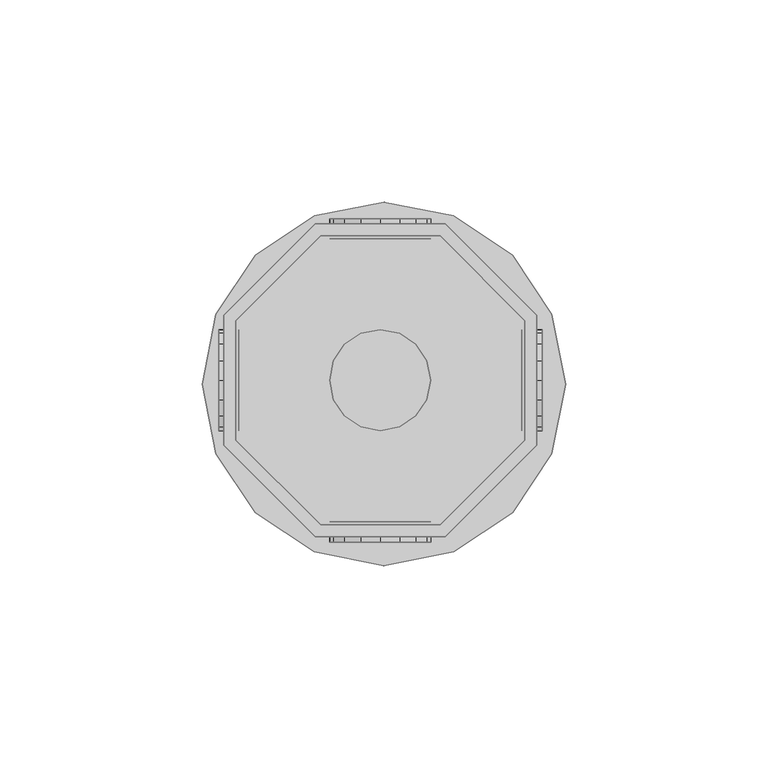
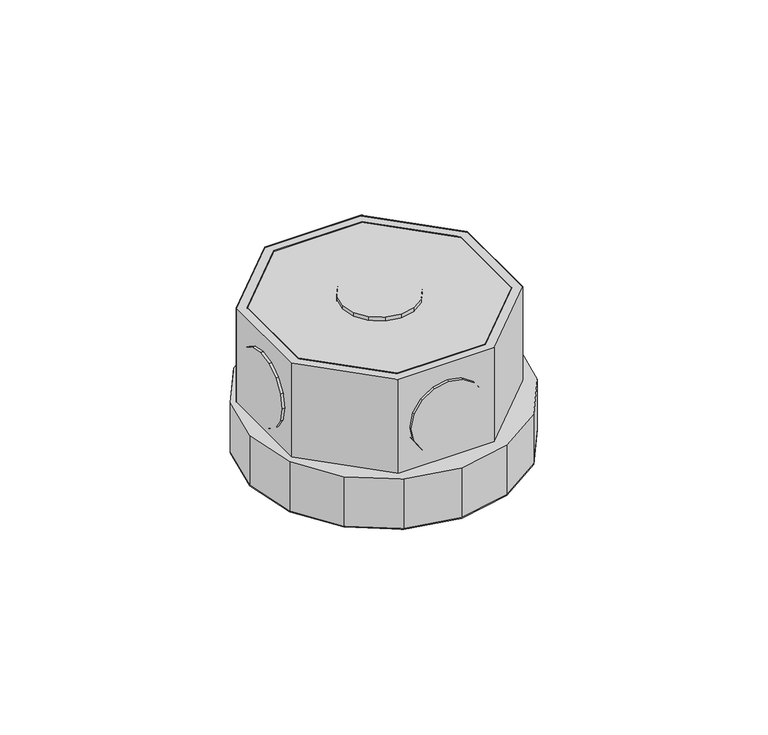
"""IFC4 building model written with IfcOpenShell, lengths in millimetres: light fixture geometry,  213902 :  213902."""

from ifc_helpers import new_model, si_unit, origin, place, context, project, spatial, triangles, source, transform, mapped, element, save


def light_fixture_6d84eb5f(model_context):
    return source(origin(), model_context, "Body", "Tessellation", [
        triangles([(11365.0004791, 25520.5003967, 2924.5999741), (11335.3999603, 25520.5003967, 2975.400071), (11335.3999603, 25520.5003967, 2924.5999741), (11365.0004791, 25520.5003967, 2975.400071), (11366.2004059, 25446.000293, 2924.5999741), (11334.1000397, 25446.000293, 2975.400071), (11334.1000397, 25446.000293, 2924.5999741), (11366.2004059, 25446.000293, 2975.400071), (11314.4000793, 25499.499353, 2975.400071), (11314.4000793, 25499.499353, 2924.5999741), (11388.9001831, 25468.6989075, 2924.5999741), (11388.9001831, 25468.6989075, 2975.400071), (11314.4000793, 25469.9011597, 2975.400071), (11314.4000793, 25469.9011597, 2924.5999741), (11388.9001831, 25500.7992737, 2924.5999741), (11388.9001831, 25500.7992737, 2975.400071), (11335.3999603, 25449.0001099, 2975.400071), (11335.3999603, 25449.0001099, 2924.5999741), (11366.2004059, 25523.5002136, 2924.5999741), (11366.2004059, 25523.5002136, 2975.400071), (11365.0004791, 25449.0001099, 2924.5999741), (11365.0004791, 25449.0001099, 2975.400071), (11334.1000397, 25523.5002136, 2975.400071), (11334.1000397, 25523.5002136, 2924.5999741), (11385.9003662, 25469.9011597, 2924.5999741), (11385.9003662, 25469.9011597, 2975.400071), (11311.4002625, 25500.7992737, 2975.400071), (11311.4002625, 25500.7992737, 2924.5999741), (11311.4002625, 25468.6989075, 2975.400071), (11385.9003662, 25499.499353, 2975.400071), (11385.9003662, 25499.499353, 2924.5999741), (11311.4002625, 25468.6989075, 2924.5999741), (11314.4000793, 25469.9011597, 2972.3999634), (11335.3999603, 25449.0001099, 2972.3999634), (11365.0004791, 25449.0001099, 2972.3999634), (11385.9003662, 25469.9011597, 2972.3999634), (11385.9003662, 25499.499353, 2972.3999634), (11365.0004791, 25520.5003967, 2972.3999634), (11335.3999603, 25520.5003967, 2972.3999634), (11314.4000793, 25499.499353, 2972.3999634), (11311.4002625, 25500.7992737, 2942.4000504), (11334.1000397, 25523.5002136, 2942.4000504), (11366.2004059, 25523.5002136, 2942.4000504), (11388.9001831, 25500.7992737, 2942.4000504), (11388.9001831, 25468.6989075, 2942.4000504), (11366.2004059, 25446.000293, 2942.4000504), (11334.1000397, 25446.000293, 2942.4000504), (11311.4002625, 25468.6989075, 2942.4000504), (11333.800058, 25442.3005188, 2942.4000504), (11309.5003784, 25466.5990356, 2942.4000504), (11319.1997864, 25451.9999268, 2942.4000504), (11306.0994232, 25483.8003113, 2942.4000504), (11309.5003784, 25501.0992554, 2942.4000504), (11319.1997864, 25515.7006897, 2942.4000504), (11333.800058, 25525.4000977, 2942.4000504), (11351.1001648, 25528.7998901, 2942.4000504), (11368.3002777, 25525.4000977, 2942.4000504), (11392.5999573, 25501.0992554, 2942.4000504), (11382.9005493, 25515.7006897, 2942.4000504), (11351.1001648, 25438.8007324, 2942.4000504), (11368.3002777, 25442.3005188, 2942.4000504), (11382.9005493, 25451.9999268, 2942.4000504), (11392.5999573, 25466.5990356, 2942.4000504), (11396.0997437, 25483.8003113, 2942.4000504), (11309.5003784, 25466.5990356, 2924.5999741), (11333.800058, 25442.3005188, 2924.5999741), (11319.1997864, 25451.9999268, 2924.5999741), (11306.0994232, 25483.8003113, 2924.5999741), (11309.5003784, 25501.0992554, 2924.5999741), (11319.1997864, 25515.7006897, 2924.5999741), (11333.800058, 25525.4000977, 2924.5999741), (11351.1001648, 25528.7998901, 2924.5999741), (11368.3002777, 25525.4000977, 2924.5999741), (11392.5999573, 25501.0992554, 2924.5999741), (11382.9005493, 25515.7006897, 2924.5999741), (11351.1001648, 25438.8007324, 2924.5999741), (11368.3002777, 25442.3005188, 2924.5999741), (11382.9005493, 25451.9999268, 2924.5999741), (11392.5999573, 25466.5990356, 2924.5999741), (11396.0997437, 25483.8003113, 2924.5999741), (11338.599765, 25524.7001404, 2952.6000092), (11345.4005127, 25524.7001404, 2945.9001274), (11341.2996002, 25524.7001404, 2948.5999626), (11337.6998199, 25524.7001404, 2957.4000069), (11350.2002197, 25524.7001404, 2944.8998978), (11338.599765, 25524.7001404, 2962.2000046), (11354.9999268, 25524.7001404, 2945.9001274), (11341.2996002, 25524.7001404, 2966.2000511), (11358.9996826, 25524.7001404, 2948.5999626), (11345.4005127, 25524.7001404, 2968.8998863), (11361.6995178, 25524.7001404, 2952.6000092), (11350.2002197, 25524.7001404, 2969.900116), (11362.6994568, 25524.7001404, 2957.4000069), (11354.9999268, 25524.7001404, 2968.8998863), (11361.6995178, 25524.7001404, 2962.2000046), (11358.9996826, 25524.7001404, 2966.2000511), (11345.4005127, 25519.7004456, 2945.9001274), (11338.599765, 25519.7004456, 2952.6000092), (11341.2996002, 25519.7004456, 2948.5999626), (11350.2002197, 25519.7004456, 2944.8998978), (11337.6998199, 25519.7004456, 2957.4000069), (11354.9999268, 25519.7004456, 2945.9001274), (11338.599765, 25519.7004456, 2962.2000046), (11358.9996826, 25519.7004456, 2948.5999626), (11341.2996002, 25519.7004456, 2966.2000511), (11345.4005127, 25519.7004456, 2968.8998863), (11361.6995178, 25519.7004456, 2952.6000092), (11350.2002197, 25519.7004456, 2969.900116), (11362.6994568, 25519.7004456, 2957.4000069), (11354.9999268, 25519.7004456, 2968.8998863), (11361.6995178, 25519.7004456, 2962.2000046), (11358.9996826, 25519.7004456, 2966.2000511), (11338.599765, 25449.7000671, 2952.6000092), (11345.4005127, 25449.7000671, 2945.9001274), (11341.2996002, 25449.7000671, 2948.5999626), (11337.6998199, 25449.7000671, 2957.4000069), (11350.2002197, 25449.7000671, 2944.8998978), (11338.599765, 25449.7000671, 2962.2000046), (11354.9999268, 25449.7000671, 2945.9001274), (11341.2996002, 25449.7000671, 2966.2000511), (11358.9996826, 25449.7000671, 2948.5999626), (11345.4005127, 25449.7000671, 2968.8998863), (11361.6995178, 25449.7000671, 2952.6000092), (11350.2002197, 25449.7000671, 2969.900116), (11362.6994568, 25449.7000671, 2957.4000069), (11354.9999268, 25449.7000671, 2968.8998863), (11361.6995178, 25449.7000671, 2962.2000046), (11358.9996826, 25449.7000671, 2966.2000511), (11345.4005127, 25444.7003723, 2945.9001274), (11338.599765, 25444.7003723, 2952.6000092), (11341.2996002, 25444.7003723, 2948.5999626), (11350.2002197, 25444.7003723, 2944.8998978), (11337.6998199, 25444.7003723, 2957.4000069), (11354.9999268, 25444.7003723, 2945.9001274), (11338.599765, 25444.7003723, 2962.2000046), (11358.9996826, 25444.7003723, 2948.5999626), (11341.2996002, 25444.7003723, 2966.2000511), (11345.4005127, 25444.7003723, 2968.8998863), (11361.6995178, 25444.7003723, 2952.6000092), (11350.2002197, 25444.7003723, 2969.900116), (11362.6994568, 25444.7003723, 2957.4000069), (11354.9999268, 25444.7003723, 2968.8998863), (11361.6995178, 25444.7003723, 2962.2000046), (11358.9996826, 25444.7003723, 2966.2000511), (11315.2000305, 25479.9005493, 2945.9001274), (11315.2000305, 25473.2009583, 2952.6000092), (11315.2000305, 25475.9007935, 2948.5999626), (11315.2000305, 25484.7002563, 2944.8998978), (11315.2000305, 25472.2010193, 2957.4000069), (11315.2000305, 25489.4999634, 2945.9001274), (11315.2000305, 25473.2009583, 2962.2000046), (11315.2000305, 25493.5997131, 2948.5999626), (11315.2000305, 25475.9007935, 2966.2000511), (11315.2000305, 25479.9005493, 2968.8998863), (11315.2000305, 25496.2995483, 2952.6000092), (11315.2000305, 25484.7002563, 2969.900116), (11315.2000305, 25497.1994934, 2957.4000069), (11315.2000305, 25489.4999634, 2968.8998863), (11315.2000305, 25496.2995483, 2962.2000046), (11315.2000305, 25493.5997131, 2966.2000511), (11310.2003357, 25473.2009583, 2952.6000092), (11310.2003357, 25479.9005493, 2945.9001274), (11310.2003357, 25475.9007935, 2948.5999626), (11310.2003357, 25472.2010193, 2957.4000069), (11310.2003357, 25484.7002563, 2944.8998978), (11310.2003357, 25473.2009583, 2962.2000046), (11310.2003357, 25489.4999634, 2945.9001274), (11310.2003357, 25475.9007935, 2966.2000511), (11310.2003357, 25493.5997131, 2948.5999626), (11310.2003357, 25479.9005493, 2968.8998863), (11310.2003357, 25496.2995483, 2952.6000092), (11310.2003357, 25484.7002563, 2969.900116), (11310.2003357, 25497.1994934, 2957.4000069), (11310.2003357, 25489.4999634, 2968.8998863), (11310.2003357, 25496.2995483, 2962.2000046), (11310.2003357, 25493.5997131, 2966.2000511), (11390.2001038, 25479.9005493, 2945.9001274), (11390.2001038, 25473.2009583, 2952.6000092), (11390.2001038, 25475.9007935, 2948.5999626), (11390.2001038, 25484.7002563, 2944.8998978), (11390.2001038, 25472.2010193, 2957.4000069), (11390.2001038, 25489.4999634, 2945.9001274), (11390.2001038, 25473.2009583, 2962.2000046), (11390.2001038, 25493.5997131, 2948.5999626), (11390.2001038, 25475.9007935, 2966.2000511), (11390.2001038, 25479.9005493, 2968.8998863), (11390.2001038, 25496.2995483, 2952.6000092), (11390.2001038, 25484.7002563, 2969.900116), (11390.2001038, 25497.1994934, 2957.4000069), (11390.2001038, 25489.4999634, 2968.8998863), (11390.2001038, 25496.2995483, 2962.2000046), (11390.2001038, 25493.5997131, 2966.2000511), (11385.2004089, 25473.2009583, 2952.6000092), (11385.2004089, 25479.9005493, 2945.9001274), (11385.2004089, 25475.9007935, 2948.5999626), (11385.2004089, 25472.2010193, 2957.4000069), (11385.2004089, 25484.7002563, 2944.8998978), (11385.2004089, 25473.2009583, 2962.2000046), (11385.2004089, 25489.4999634, 2945.9001274), (11385.2004089, 25475.9007935, 2966.2000511), (11385.2004089, 25493.5997131, 2948.5999626), (11385.2004089, 25479.9005493, 2968.8998863), (11385.2004089, 25496.2995483, 2952.6000092), (11385.2004089, 25484.7002563, 2969.900116), (11385.2004089, 25497.1994934, 2957.4000069), (11385.2004089, 25489.4999634, 2968.8998863), (11385.2004089, 25496.2995483, 2962.2000046), (11385.2004089, 25493.5997131, 2966.2000511), (11345.4005127, 25473.2009583, 2976.9999733), (11338.599765, 25479.9005493, 2976.9999733), (11341.2996002, 25475.9007935, 2976.9999733), (11337.6998199, 25484.7002563, 2976.9999733), (11350.2002197, 25472.2010193, 2976.9999733), (11338.599765, 25489.4999634, 2976.9999733), (11354.9999268, 25473.2009583, 2976.9999733), (11341.2996002, 25493.5997131, 2976.9999733), (11358.9996826, 25475.9007935, 2976.9999733), (11345.4005127, 25496.2995483, 2976.9999733), (11361.6995178, 25479.9005493, 2976.9999733), (11350.2002197, 25497.1994934, 2976.9999733), (11362.6994568, 25484.7002563, 2976.9999733), (11354.9999268, 25496.2995483, 2976.9999733), (11361.6995178, 25489.4999634, 2976.9999733), (11358.9996826, 25493.5997131, 2976.9999733), (11338.599765, 25479.9005493, 2971.9999878), (11345.4005127, 25473.2009583, 2971.9999878), (11341.2996002, 25475.9007935, 2971.9999878), (11337.6998199, 25484.7002563, 2971.9999878), (11350.2002197, 25472.2010193, 2971.9999878), (11338.599765, 25489.4999634, 2971.9999878), (11354.9999268, 25473.2009583, 2971.9999878), (11341.2996002, 25493.5997131, 2971.9999878), (11358.9996826, 25475.9007935, 2971.9999878), (11345.4005127, 25496.2995483, 2971.9999878), (11361.6995178, 25479.9005493, 2971.9999878), (11350.2002197, 25497.1994934, 2971.9999878), (11362.6994568, 25484.7002563, 2971.9999878), (11354.9999268, 25496.2995483, 2971.9999878), (11361.6995178, 25489.4999634, 2971.9999878), (11358.9996826, 25493.5997131, 2971.9999878)], [[1, 2, 3], [2, 1, 4], [5, 6, 7], [6, 5, 8], [3, 9, 10], [9, 3, 2], [11, 8, 5], [8, 11, 12], [10, 13, 14], [13, 10, 9], [15, 12, 11], [12, 15, 16], [14, 17, 18], [17, 14, 13], [19, 16, 15], [16, 19, 20], [17, 21, 18], [21, 17, 22], [23, 19, 24], [19, 23, 20], [22, 25, 21], [25, 22, 26], [27, 24, 28], [24, 27, 23], [6, 13, 29], [29, 13, 27], [27, 13, 9], [27, 9, 23], [23, 9, 2], [23, 2, 4], [23, 4, 20], [20, 4, 30], [8, 17, 6], [6, 17, 13], [17, 8, 22], [12, 22, 8], [22, 12, 26], [30, 26, 12], [16, 30, 12], [20, 30, 16], [30, 1, 31], [1, 30, 4], [6, 32, 7], [32, 6, 29], [32, 14, 7], [28, 14, 32], [14, 28, 10], [24, 10, 28], [10, 24, 3], [1, 3, 24], [19, 1, 24], [31, 1, 19], [7, 18, 5], [14, 18, 7], [5, 18, 21], [5, 21, 11], [11, 21, 25], [11, 25, 31], [11, 31, 15], [15, 31, 19], [26, 31, 25], [31, 26, 30], [29, 28, 32], [28, 29, 27], [17, 33, 34], [33, 17, 13], [35, 17, 34], [17, 35, 22], [36, 22, 35], [22, 36, 26], [37, 26, 36], [26, 37, 30], [38, 30, 37], [30, 38, 4], [2, 38, 39], [38, 2, 4], [17, 9, 13], [9, 17, 22], [9, 22, 2], [2, 22, 26], [2, 26, 4], [4, 26, 30], [13, 40, 33], [40, 13, 9], [40, 34, 33], [35, 34, 40], [35, 40, 39], [35, 39, 36], [36, 39, 38], [36, 38, 37], [9, 39, 40], [39, 9, 2], [24, 41, 28], [41, 24, 42], [19, 42, 24], [42, 19, 43], [44, 19, 15], [19, 44, 43], [45, 15, 11], [15, 45, 44], [46, 11, 5], [11, 46, 45], [47, 5, 7], [5, 47, 46], [32, 47, 7], [47, 32, 48], [28, 48, 32], [48, 28, 41], [49, 50, 51], [48, 50, 49], [50, 48, 52], [41, 52, 48], [52, 41, 53], [53, 41, 54], [42, 54, 41], [54, 42, 55], [55, 42, 43], [55, 43, 56], [56, 43, 57], [57, 43, 44], [57, 44, 58], [57, 58, 59], [47, 49, 60], [49, 47, 48], [47, 60, 46], [61, 46, 60], [46, 61, 62], [46, 62, 45], [45, 62, 63], [44, 45, 63], [44, 63, 64], [44, 64, 58], [65, 66, 67], [66, 65, 32], [68, 32, 65], [32, 68, 28], [28, 68, 69], [70, 28, 69], [28, 70, 24], [71, 24, 70], [19, 24, 71], [19, 71, 72], [73, 19, 72], [19, 73, 15], [74, 15, 73], [74, 73, 75], [76, 66, 7], [32, 7, 66], [5, 76, 7], [76, 5, 77], [77, 5, 78], [11, 78, 5], [78, 11, 79], [79, 11, 15], [79, 15, 80], [80, 15, 74], [57, 75, 73], [75, 57, 59], [56, 73, 72], [73, 56, 57], [55, 72, 71], [72, 55, 56], [54, 71, 70], [71, 54, 55], [53, 70, 69], [70, 53, 54], [52, 69, 68], [69, 52, 53], [50, 68, 65], [68, 50, 52], [51, 65, 67], [65, 51, 50], [66, 51, 67], [51, 66, 49], [76, 49, 66], [49, 76, 60], [77, 60, 76], [60, 77, 61], [78, 61, 77], [61, 78, 62], [79, 62, 78], [62, 79, 63], [80, 63, 79], [63, 80, 64], [75, 58, 74], [58, 75, 59], [74, 64, 80], [64, 74, 58], [81, 82, 83], [82, 81, 84], [85, 82, 84], [85, 84, 86], [87, 85, 86], [87, 86, 88], [87, 88, 89], [89, 88, 90], [89, 90, 91], [91, 90, 92], [91, 92, 93], [93, 92, 94], [93, 94, 95], [95, 94, 96], [97, 98, 99], [98, 97, 100], [101, 98, 100], [101, 100, 102], [103, 101, 102], [103, 102, 104], [103, 104, 105], [105, 104, 106], [106, 104, 107], [106, 107, 108], [108, 107, 109], [108, 109, 110], [110, 109, 111], [110, 111, 112], [87, 104, 102], [104, 87, 89], [85, 102, 100], [102, 85, 87], [82, 100, 97], [100, 82, 85], [83, 97, 99], [97, 83, 82], [98, 83, 99], [83, 98, 81], [101, 81, 98], [81, 101, 84], [103, 84, 101], [84, 103, 86], [105, 86, 103], [86, 105, 88], [106, 88, 105], [88, 106, 90], [108, 90, 106], [90, 108, 92], [110, 92, 108], [92, 110, 94], [112, 94, 110], [94, 112, 96], [95, 112, 111], [112, 95, 96], [93, 111, 109], [111, 93, 95], [89, 107, 104], [107, 89, 91], [91, 109, 107], [109, 91, 93], [113, 114, 115], [114, 113, 116], [117, 114, 116], [117, 116, 118], [119, 117, 118], [119, 118, 120], [119, 120, 121], [121, 120, 122], [121, 122, 123], [123, 122, 124], [123, 124, 125], [125, 124, 126], [125, 126, 127], [127, 126, 128], [129, 130, 131], [130, 129, 132], [133, 130, 132], [133, 132, 134], [135, 133, 134], [135, 134, 136], [135, 136, 137], [137, 136, 138], [138, 136, 139], [138, 139, 140], [140, 139, 141], [140, 141, 142], [142, 141, 143], [142, 143, 144], [119, 136, 134], [136, 119, 121], [117, 134, 132], [134, 117, 119], [114, 132, 129], [132, 114, 117], [115, 129, 131], [129, 115, 114], [130, 115, 131], [115, 130, 113], [133, 113, 130], [113, 133, 116], [135, 116, 133], [116, 135, 118], [137, 118, 135], [118, 137, 120], [138, 120, 137], [120, 138, 122], [140, 122, 138], [122, 140, 124], [142, 124, 140], [124, 142, 126], [144, 126, 142], [126, 144, 128], [127, 144, 143], [144, 127, 128], [125, 143, 141], [143, 125, 127], [121, 139, 136], [139, 121, 123], [123, 141, 139], [141, 123, 125], [145, 146, 147], [146, 145, 148], [149, 146, 148], [149, 148, 150], [151, 149, 150], [151, 150, 152], [151, 152, 153], [153, 152, 154], [154, 152, 155], [154, 155, 156], [156, 155, 157], [156, 157, 158], [158, 157, 159], [158, 159, 160], [161, 162, 163], [162, 161, 164], [165, 162, 164], [165, 164, 166], [167, 165, 166], [167, 166, 168], [169, 167, 168], [169, 168, 170], [169, 170, 171], [171, 170, 172], [171, 172, 173], [173, 172, 174], [173, 174, 175], [175, 174, 176], [158, 176, 174], [176, 158, 160], [156, 174, 172], [174, 156, 158], [154, 172, 170], [172, 154, 156], [153, 170, 168], [170, 153, 154], [151, 168, 166], [168, 151, 153], [149, 166, 164], [166, 149, 151], [146, 164, 161], [164, 146, 149], [147, 161, 163], [161, 147, 146], [162, 147, 163], [147, 162, 145], [165, 145, 162], [145, 165, 148], [167, 148, 165], [148, 167, 150], [169, 150, 167], [150, 169, 152], [171, 152, 169], [152, 171, 155], [173, 155, 171], [155, 173, 157], [176, 159, 175], [159, 176, 160], [175, 157, 173], [157, 175, 159], [177, 178, 179], [178, 177, 180], [181, 178, 180], [181, 180, 182], [183, 181, 182], [183, 182, 184], [183, 184, 185], [185, 184, 186], [186, 184, 187], [186, 187, 188], [188, 187, 189], [188, 189, 190], [190, 189, 191], [190, 191, 192], [193, 194, 195], [194, 193, 196], [197, 194, 196], [197, 196, 198], [199, 197, 198], [199, 198, 200], [201, 199, 200], [201, 200, 202], [201, 202, 203], [203, 202, 204], [203, 204, 205], [205, 204, 206], [205, 206, 207], [207, 206, 208], [190, 208, 206], [208, 190, 192], [188, 206, 204], [206, 188, 190], [186, 204, 202], [204, 186, 188], [185, 202, 200], [202, 185, 186], [183, 200, 198], [200, 183, 185], [181, 198, 196], [198, 181, 183], [178, 196, 193], [196, 178, 181], [179, 193, 195], [193, 179, 178], [194, 179, 195], [179, 194, 177], [197, 177, 194], [177, 197, 180], [199, 180, 197], [180, 199, 182], [201, 182, 199], [182, 201, 184], [203, 184, 201], [184, 203, 187], [205, 187, 203], [187, 205, 189], [208, 191, 207], [191, 208, 192], [207, 189, 205], [189, 207, 191], [209, 210, 211], [212, 210, 209], [212, 209, 213], [214, 212, 213], [214, 213, 215], [216, 214, 215], [216, 215, 217], [216, 217, 218], [218, 217, 219], [218, 219, 220], [220, 219, 221], [220, 221, 222], [222, 221, 223], [222, 223, 224], [225, 226, 227], [226, 225, 228], [229, 226, 228], [229, 228, 230], [231, 229, 230], [231, 230, 232], [231, 232, 233], [233, 232, 234], [233, 234, 235], [235, 234, 236], [235, 236, 237], [237, 236, 238], [237, 238, 239], [239, 238, 240], [222, 240, 238], [240, 222, 224], [220, 238, 236], [238, 220, 222], [218, 236, 234], [236, 218, 220], [216, 234, 232], [234, 216, 218], [214, 232, 230], [232, 214, 216], [212, 230, 228], [230, 212, 214], [210, 228, 225], [228, 210, 212], [211, 225, 227], [225, 211, 210], [226, 211, 227], [211, 226, 209], [229, 209, 226], [209, 229, 213], [231, 213, 229], [213, 231, 215], [233, 215, 231], [215, 233, 217], [235, 217, 233], [217, 235, 219], [237, 219, 235], [219, 237, 221], [240, 223, 239], [223, 240, 224], [239, 221, 237], [221, 239, 223]], closed=False),
    ])


if __name__ == "__main__":
    model = new_model("IFC4")
    model_context = context("Model", 3, world=origin())
    ifc_project = project(units=[si_unit("LENGTHUNIT", "METRE", prefix="MILLI")], contexts=[model_context])
    site = spatial("IfcSite", under=ifc_project)
    building = spatial("IfcBuilding", under=site)
    placement = place(None, origin())
    light_fixture_shape = light_fixture_6d84eb5f(model_context)
    element("IfcLightFixture", 1, ObjectType=" 213902 :  213902", at=placement, inside=building, context=model_context, shape_type="MappedRepresentation", body=[
        mapped(light_fixture_shape, transform((0.0, 0.0, 0.0), x_axis=(1.0, 0.0, 0.0), y_axis=(0.0, 1.0, 0.0), z_axis=(0.0, 0.0, 1.0))),
    ])
    save(model, "model.ifc")
